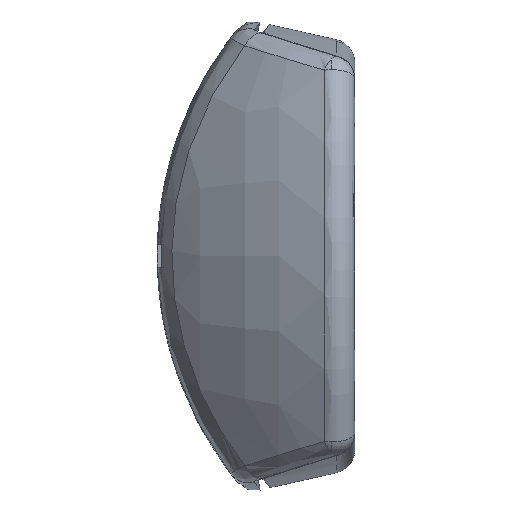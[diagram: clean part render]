
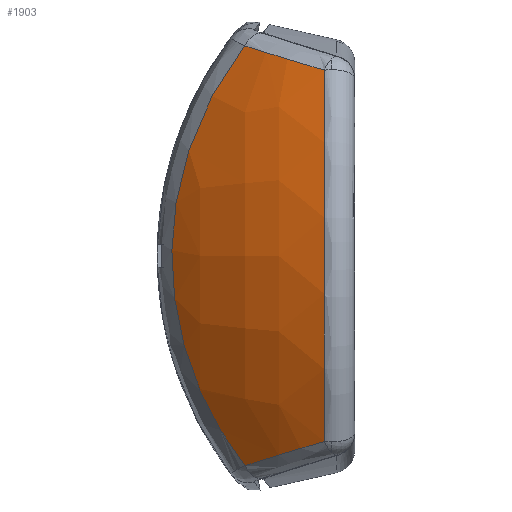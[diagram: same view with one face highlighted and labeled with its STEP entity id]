
A CAD part, left-side view. The second image highlights one B-rep face of the part: STEP entity #1903.
In plain terms, the highlighted toroidal (fillet/blend) face has major radius 7.691 mm and minor radius 35 mm.
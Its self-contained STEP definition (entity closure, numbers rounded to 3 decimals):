
#163 = EDGE_CURVE ( 'NONE', #1753, #10507, #10599, .T. ) ;
#624 = ORIENTED_EDGE ( 'NONE', *, *, #760, .T. ) ;
#760 = EDGE_CURVE ( 'NONE', #1553, #16471, #4540, .T. ) ;
#1233 = DIRECTION ( 'NONE',  ( 0., -1., 0. ) ) ;
#1477 = CARTESIAN_POINT ( 'NONE',  ( 25.269, 14.614, -8.008 ) ) ;
#1553 = VERTEX_POINT ( 'NONE', #8646 ) ;
#1557 = CARTESIAN_POINT ( 'NONE',  ( 25.316, 13.557, 11.061 ) ) ;
#1753 = VERTEX_POINT ( 'NONE', #6809 ) ;
#1900 = DIRECTION ( 'NONE',  ( 0., 1., 0. ) ) ;
#1903 = ADVANCED_FACE ( 'NONE', ( #12261 ), #8185, .T. ) ;
#3059 = CARTESIAN_POINT ( 'NONE',  ( 25.245, 15.031, -6.426 ) ) ;
#3079 = CARTESIAN_POINT ( 'NONE',  ( 27.093, 7.359, -17.403 ) ) ;
#3116 = CARTESIAN_POINT ( 'NONE',  ( 25.343, 12.528, 13.288 ) ) ;
#4451 = DIRECTION ( 'NONE',  ( 0., 0., -1. ) ) ;
#4538 = CARTESIAN_POINT ( 'NONE',  ( 25.327, 9.46, -18.066 ) ) ;
#4540 = B_SPLINE_CURVE_WITH_KNOTS ( 'NONE', 3,
 ( #15788, #8084, #18874, #9610 ),
 .UNSPECIFIED., .F., .F.,
 ( 4, 4 ),
 ( 0., 0.008 ),
 .UNSPECIFIED. ) ;
#4600 = CARTESIAN_POINT ( 'NONE',  ( 25.206, 15.608, -3.239 ) ) ;
#4676 = CARTESIAN_POINT ( 'NONE',  ( 25.352, 10.463, 16.783 ) ) ;
#5463 = EDGE_CURVE ( 'NONE', #10507, #1553, #17964, .T. ) ;
#5914 = CARTESIAN_POINT ( 'NONE',  ( 28.574, 5.085, -16.699 ) ) ;
#6092 = CARTESIAN_POINT ( 'NONE',  ( 25.347, 10.443, -16.755 ) ) ;
#6166 = CARTESIAN_POINT ( 'NONE',  ( 25.195, 15.746, 0.802 ) ) ;
#6193 = CARTESIAN_POINT ( 'NONE',  ( 25.327, 9.46, -18.066 ) ) ;
#6809 = CARTESIAN_POINT ( 'NONE',  ( 29.756, 2.623, -15.979 ) ) ;
#7323 = CARTESIAN_POINT ( 'NONE',  ( 29.756, 2.623, -15.979 ) ) ;
#7650 = CARTESIAN_POINT ( 'NONE',  ( 25.352, 11.757, -14.697 ) ) ;
#7709 = CARTESIAN_POINT ( 'NONE',  ( 25.208, 15.573, 3.25 ) ) ;
#7715 = EDGE_LOOP ( 'NONE', ( #10398, #624, #17712, #10030 ) ) ;
#8084 = CARTESIAN_POINT ( 'NONE',  ( 27.093, 7.359, 17.403 ) ) ;
#8185 = TOROIDAL_SURFACE ( 'NONE', #9563, 7.691, 35. ) ;
#8646 = CARTESIAN_POINT ( 'NONE',  ( 25.327, 9.46, 18.066 ) ) ;
#9162 = CARTESIAN_POINT ( 'NONE',  ( 25.317, 13.58, -11.092 ) ) ;
#9239 = CARTESIAN_POINT ( 'NONE',  ( 25.244, 15.06, 6.451 ) ) ;
#9563 = AXIS2_PLACEMENT_3D ( 'NONE', #13680, #1233, #4451 ) ;
#9610 = CARTESIAN_POINT ( 'NONE',  ( 29.756, 2.623, 15.979 ) ) ;
#10030 = ORIENTED_EDGE ( 'NONE', *, *, #163, .T. ) ;
#10398 = ORIENTED_EDGE ( 'NONE', *, *, #5463, .T. ) ;
#10507 = VERTEX_POINT ( 'NONE', #17052 ) ;
#10599 = B_SPLINE_CURVE_WITH_KNOTS ( 'NONE', 3,
 ( #7323, #5914, #3079, #6193 ),
 .UNSPECIFIED., .F., .F.,
 ( 4, 4 ),
 ( 0., 0.008 ),
 .UNSPECIFIED. ) ;
#10735 = CARTESIAN_POINT ( 'NONE',  ( 25.281, 14.377, -8.789 ) ) ;
#10801 = CARTESIAN_POINT ( 'NONE',  ( 25.305, 13.856, 10.305 ) ) ;
#11143 = CARTESIAN_POINT ( 'NONE',  ( -7.947, 2.623, 0. ) ) ;
#12011 = CARTESIAN_POINT ( 'NONE',  ( 29.756, 2.623, 15.979 ) ) ;
#12027 = EDGE_CURVE ( 'NONE', #16471, #1753, #14997, .T. ) ;
#12214 = CARTESIAN_POINT ( 'NONE',  ( 25.34, 9.964, -17.422 ) ) ;
#12261 = FACE_OUTER_BOUND ( 'NONE', #7715, .T. ) ;
#12270 = CARTESIAN_POINT ( 'NONE',  ( 25.263, 14.725, -7.612 ) ) ;
#12335 = CARTESIAN_POINT ( 'NONE',  ( 25.335, 12.892, 12.555 ) ) ;
#12702 = DIRECTION ( 'NONE',  ( 0., 0., -1. ) ) ;
#13680 = CARTESIAN_POINT ( 'NONE',  ( -7.947, -8.279, 0. ) ) ;
#13832 = CARTESIAN_POINT ( 'NONE',  ( 25.234, 15.201, -5.632 ) ) ;
#13910 = CARTESIAN_POINT ( 'NONE',  ( 25.356, 11.356, 15.428 ) ) ;
#14997 = CIRCLE ( 'NONE', #16923, 40.949 ) ;
#15412 = CARTESIAN_POINT ( 'NONE',  ( 25.195, 15.745, -1.631 ) ) ;
#15481 = CARTESIAN_POINT ( 'NONE',  ( 25.327, 9.46, 18.066 ) ) ;
#15788 = CARTESIAN_POINT ( 'NONE',  ( 25.327, 9.46, 18.066 ) ) ;
#16471 = VERTEX_POINT ( 'NONE', #12011 ) ;
#16888 = CARTESIAN_POINT ( 'NONE',  ( 25.353, 11.339, -15.392 ) ) ;
#16923 = AXIS2_PLACEMENT_3D ( 'NONE', #11143, #1900, #12702 ) ;
#16953 = CARTESIAN_POINT ( 'NONE',  ( 25.198, 15.712, 1.619 ) ) ;
#17052 = CARTESIAN_POINT ( 'NONE',  ( 25.327, 9.46, -18.066 ) ) ;
#17712 = ORIENTED_EDGE ( 'NONE', *, *, #12027, .T. ) ;
#17964 = B_SPLINE_CURVE_WITH_KNOTS ( 'NONE', 3,
 ( #4538, #12214, #6092, #16888, #7650, #18449, #9162, #19995, #10735, #1477, #12270, #3059, #13832, #4600, #15412, #6166, #16953, #7709, #18522, #9239, #20050, #10801, #1557, #12335, #3116, #13910, #4676, #15481 ),
 .UNSPECIFIED., .F., .F.,
 ( 4, 2, 2, 2, 2, 2, 2, 2, 2, 2, 2, 2, 2, 4 ),
 ( 0.001, 0.004, 0.006, 0.011, 0.012, 0.014, 0.016, 0.021, 0.024, 0.026, 0.031, 0.033, 0.036, 0.041 ),
 .UNSPECIFIED. ) ;
#18449 = CARTESIAN_POINT ( 'NONE',  ( 25.338, 12.922, -12.568 ) ) ;
#18522 = CARTESIAN_POINT ( 'NONE',  ( 25.216, 15.47, 4.057 ) ) ;
#18874 = CARTESIAN_POINT ( 'NONE',  ( 28.574, 5.085, 16.699 ) ) ;
#19995 = CARTESIAN_POINT ( 'NONE',  ( 25.287, 14.25, -9.176 ) ) ;
#20050 = CARTESIAN_POINT ( 'NONE',  ( 25.269, 14.656, 8.012 ) ) ;
